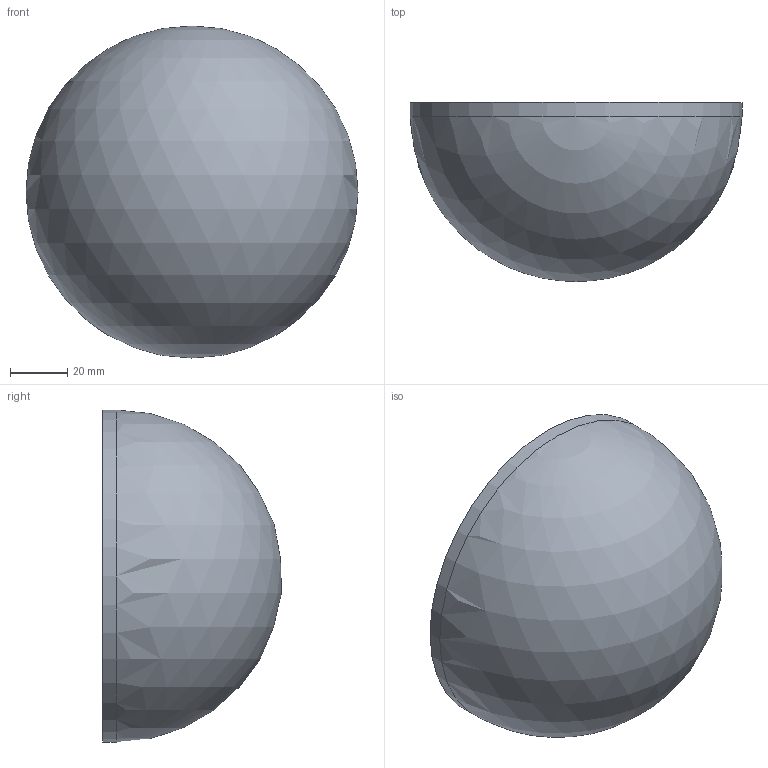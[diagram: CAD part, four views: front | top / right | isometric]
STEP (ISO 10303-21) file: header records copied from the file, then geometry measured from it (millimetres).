
FILE_DESCRIPTION(('Open CASCADE Model'),'2;1');
FILE_NAME('Open CASCADE Shape Model','2026-11-10T19:16:50',('Author'),( 'Open CASCADE'),'Open CASCADE STEP processor 8.0','Open CASCADE 8.0' ,'Unknown');
FILE_SCHEMA(('AUTOMOTIVE_DESIGN { 1 0 10303 214 1 1 1 1 }'));
Length unit declared in the file: millimetre
Products named in the file (1): Open CASCADE STEP translator 8.0 11
Bounding box: 116 x 62.48 x 116 mm (x, y, z)
Volume: 44270.5 mm3; surface area: 44995.1 mm2
Topology: 1 solids, 1 shells, 5 faces, 12 edges, 6 vertices
Faces by surface type: sphere 2, cylinder 2, plane 1
Full cylindrical faces by diameter (mm): 112 x1, 116 x1
Entity records: 242 total; most frequent: CARTESIAN_POINT 50, DIRECTION 38, ORIENTED_EDGE 16, PCURVE 16, DEFINITIONAL_REPRESENTATION 16, LINE 14, VECTOR 14, AXIS2_PLACEMENT_3D 12
